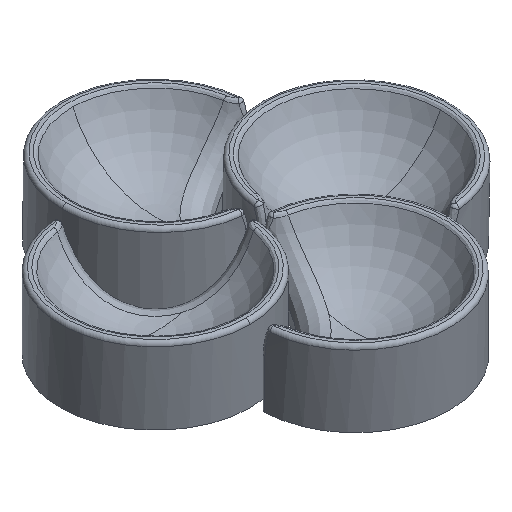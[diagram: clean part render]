
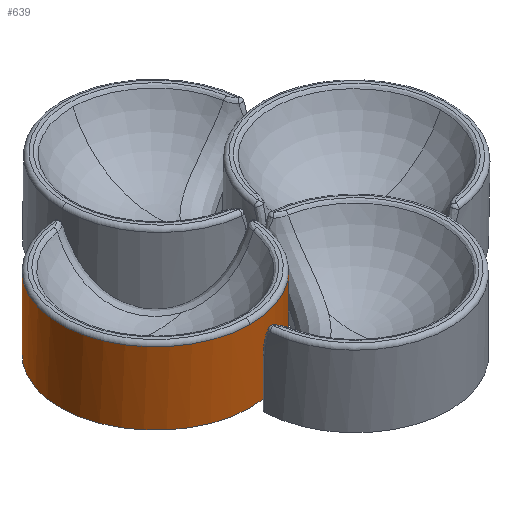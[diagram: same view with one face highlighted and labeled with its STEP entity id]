
A CAD part, isometric view. The second image highlights one B-rep face of the part: STEP entity #639.
In plain terms, the highlighted cylindrical face has radius 25.056 mm (diameter 50.112 mm), a partial arc.
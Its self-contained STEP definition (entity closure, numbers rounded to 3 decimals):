
#5 = B_SPLINE_CURVE_WITH_KNOTS ( 'NONE', 3,
 ( #78, #1121, #510, #933, #316, #516, #1049, #1144, #294, #597 ),
 .UNSPECIFIED., .F., .F.,
 ( 4, 2, 2, 2, 4 ),
 ( 0., 0.002, 0.003, 0.005, 0.006 ),
 .UNSPECIFIED. ) ;
#49 = CIRCLE ( 'NONE', #827, 25.056 ) ;
#55 = CARTESIAN_POINT ( 'NONE',  ( -49.814, 8.552, 6.253 ) ) ;
#78 = CARTESIAN_POINT ( 'NONE',  ( -23.777, 35.045, 2.637 ) ) ;
#94 = VERTEX_POINT ( 'NONE', #849 ) ;
#106 = CIRCLE ( 'NONE', #646, 25.056 ) ;
#107 = CARTESIAN_POINT ( 'NONE',  ( -23.777, 35.045, -10.266 ) ) ;
#147 = AXIS2_PLACEMENT_3D ( 'NONE', #290, #418, #1330 ) ;
#154 = CARTESIAN_POINT ( 'NONE',  ( -49.834, 8.956, 3.687 ) ) ;
#195 = EDGE_LOOP ( 'NONE', ( #932, #249, #568, #476, #1128, #775, #491 ) ) ;
#219 = CARTESIAN_POINT ( 'NONE',  ( -23.777, 35.045, 9.734 ) ) ;
#238 = VECTOR ( 'NONE', #634, 1000. ) ;
#246 = EDGE_CURVE ( 'NONE', #878, #286, #682, .T. ) ;
#249 = ORIENTED_EDGE ( 'NONE', *, *, #246, .T. ) ;
#267 = EDGE_CURVE ( 'NONE', #1196, #94, #729, .T. ) ;
#282 = CARTESIAN_POINT ( 'NONE',  ( -49.835, 8.987, 2.637 ) ) ;
#286 = VERTEX_POINT ( 'NONE', #891 ) ;
#290 = CARTESIAN_POINT ( 'NONE',  ( -24.8, 10.01, -10.266 ) ) ;
#294 = CARTESIAN_POINT ( 'NONE',  ( -22.723, 34.981, 8.254 ) ) ;
#301 = DIRECTION ( 'NONE',  ( 0., 0., -1. ) ) ;
#316 = CARTESIAN_POINT ( 'NONE',  ( -23.552, 35.035, 5.235 ) ) ;
#368 = DIRECTION ( 'NONE',  ( 1., 0., 0. ) ) ;
#384 = AXIS2_PLACEMENT_3D ( 'NONE', #1015, #301, #823 ) ;
#386 = FACE_OUTER_BOUND ( 'NONE', #195, .T. ) ;
#418 = DIRECTION ( 'NONE',  ( 0., 0., 1. ) ) ;
#434 = CARTESIAN_POINT ( 'NONE',  ( 0.256, 10.01, 8.734 ) ) ;
#436 = VERTEX_POINT ( 'NONE', #866 ) ;
#452 = CARTESIAN_POINT ( 'NONE',  ( -49.829, 8.844, 4.722 ) ) ;
#467 = CARTESIAN_POINT ( 'NONE',  ( -49.806, 8.424, 6.757 ) ) ;
#476 = ORIENTED_EDGE ( 'NONE', *, *, #267, .T. ) ;
#491 = ORIENTED_EDGE ( 'NONE', *, *, #525, .T. ) ;
#510 = CARTESIAN_POINT ( 'NONE',  ( -23.746, 35.044, 3.687 ) ) ;
#516 = CARTESIAN_POINT ( 'NONE',  ( -23.342, 35.024, 6.253 ) ) ;
#525 = EDGE_CURVE ( 'NONE', #1302, #436, #49, .T. ) ;
#529 = B_SPLINE_CURVE_WITH_KNOTS ( 'NONE', 3,
 ( #883, #980, #804, #467, #55, #1216, #452, #154, #669, #282 ),
 .UNSPECIFIED., .F., .F.,
 ( 4, 2, 2, 2, 4 ),
 ( 0., 0.002, 0.003, 0.005, 0.006 ),
 .UNSPECIFIED. ) ;
#567 = CARTESIAN_POINT ( 'NONE',  ( -24.8, 10.01, 8.734 ) ) ;
#568 = ORIENTED_EDGE ( 'NONE', *, *, #1095, .T. ) ;
#597 = CARTESIAN_POINT ( 'NONE',  ( -22.505, 34.961, 8.734 ) ) ;
#634 = DIRECTION ( 'NONE',  ( 0., 0., 1. ) ) ;
#639 = ADVANCED_FACE ( 'NONE', ( #386 ), #1228, .T. ) ;
#646 = AXIS2_PLACEMENT_3D ( 'NONE', #567, #1300, #368 ) ;
#649 = EDGE_CURVE ( 'NONE', #94, #908, #5, .T. ) ;
#669 = CARTESIAN_POINT ( 'NONE',  ( -49.835, 8.987, 3.165 ) ) ;
#682 = LINE ( 'NONE', #906, #848 ) ;
#688 = CARTESIAN_POINT ( 'NONE',  ( -49.835, 8.987, 2.637 ) ) ;
#729 = LINE ( 'NONE', #219, #238 ) ;
#775 = ORIENTED_EDGE ( 'NONE', *, *, #1058, .T. ) ;
#804 = CARTESIAN_POINT ( 'NONE',  ( -49.785, 8.114, 7.757 ) ) ;
#823 = DIRECTION ( 'NONE',  ( -1., 0., 0. ) ) ;
#827 = AXIS2_PLACEMENT_3D ( 'NONE', #1211, #901, #1086 ) ;
#848 = VECTOR ( 'NONE', #1106, 1000. ) ;
#849 = CARTESIAN_POINT ( 'NONE',  ( -23.777, 35.045, 2.637 ) ) ;
#866 = CARTESIAN_POINT ( 'NONE',  ( -49.751, 7.715, 8.734 ) ) ;
#878 = VERTEX_POINT ( 'NONE', #688 ) ;
#883 = CARTESIAN_POINT ( 'NONE',  ( -49.751, 7.715, 8.734 ) ) ;
#891 = CARTESIAN_POINT ( 'NONE',  ( -49.835, 8.987, -10.266 ) ) ;
#901 = DIRECTION ( 'NONE',  ( 0., 0., -1. ) ) ;
#906 = CARTESIAN_POINT ( 'NONE',  ( -49.835, 8.987, 9.734 ) ) ;
#908 = VERTEX_POINT ( 'NONE', #1097 ) ;
#932 = ORIENTED_EDGE ( 'NONE', *, *, #963, .T. ) ;
#933 = CARTESIAN_POINT ( 'NONE',  ( -23.634, 35.039, 4.722 ) ) ;
#963 = EDGE_CURVE ( 'NONE', #436, #878, #529, .T. ) ;
#980 = CARTESIAN_POINT ( 'NONE',  ( -49.771, 7.933, 8.254 ) ) ;
#1015 = CARTESIAN_POINT ( 'NONE',  ( -24.8, 10.01, 9.734 ) ) ;
#1049 = CARTESIAN_POINT ( 'NONE',  ( -23.214, 35.016, 6.757 ) ) ;
#1058 = EDGE_CURVE ( 'NONE', #908, #1302, #106, .T. ) ;
#1086 = DIRECTION ( 'NONE',  ( 1., 0., 0. ) ) ;
#1095 = EDGE_CURVE ( 'NONE', #286, #1196, #1295, .T. ) ;
#1097 = CARTESIAN_POINT ( 'NONE',  ( -22.505, 34.961, 8.734 ) ) ;
#1106 = DIRECTION ( 'NONE',  ( 0., 0., -1. ) ) ;
#1121 = CARTESIAN_POINT ( 'NONE',  ( -23.777, 35.045, 3.165 ) ) ;
#1128 = ORIENTED_EDGE ( 'NONE', *, *, #649, .T. ) ;
#1144 = CARTESIAN_POINT ( 'NONE',  ( -22.904, 34.995, 7.757 ) ) ;
#1196 = VERTEX_POINT ( 'NONE', #107 ) ;
#1211 = CARTESIAN_POINT ( 'NONE',  ( -24.8, 10.01, 8.734 ) ) ;
#1216 = CARTESIAN_POINT ( 'NONE',  ( -49.825, 8.762, 5.235 ) ) ;
#1228 = CYLINDRICAL_SURFACE ( 'NONE', #384, 25.056 ) ;
#1295 = CIRCLE ( 'NONE', #147, 25.056 ) ;
#1300 = DIRECTION ( 'NONE',  ( 0., 0., -1. ) ) ;
#1302 = VERTEX_POINT ( 'NONE', #434 ) ;
#1330 = DIRECTION ( 'NONE',  ( 1., 0., 0. ) ) ;
